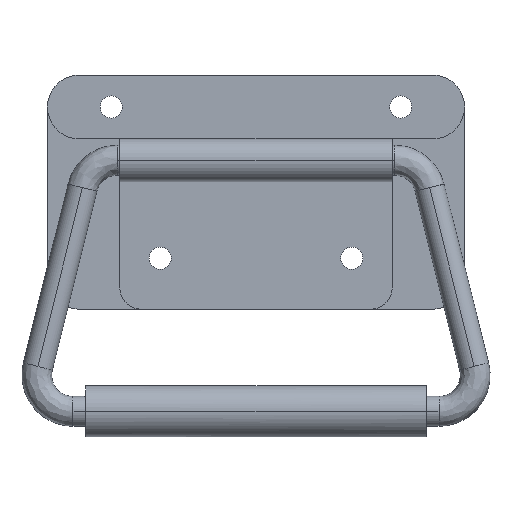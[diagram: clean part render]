
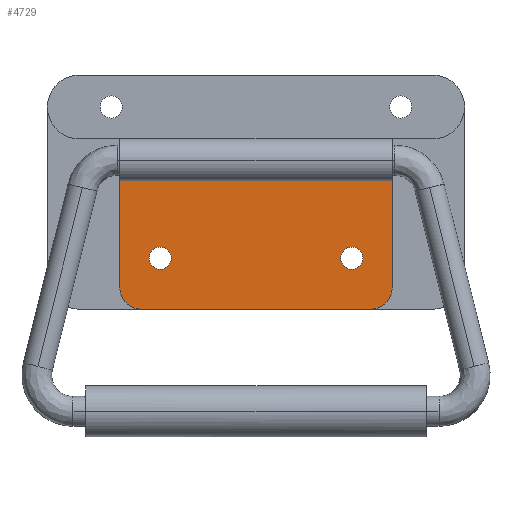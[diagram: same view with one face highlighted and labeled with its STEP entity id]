
A CAD part, left-side view. The second image highlights one B-rep face of the part: STEP entity #4729.
In plain terms, the highlighted planar face has unit normal (-1, 0, 0).
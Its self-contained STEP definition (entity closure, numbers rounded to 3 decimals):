
#4114=CARTESIAN_POINT('',(0.,-47.6,0.));
#4115=VERTEX_POINT('',#4114);
#4124=CARTESIAN_POINT('',(0.,-42.4,0.));
#4125=VERTEX_POINT('',#4124);
#4126=CARTESIAN_POINT('',(0.,-45.0,0.));
#4127=DIRECTION('',(1.0,0.0,0.0));
#4128=DIRECTION('',(0.0,-1.0,0.0));
#4129=AXIS2_PLACEMENT_3D('',#4126,#4127,#4128);
#4130=CIRCLE('',#4129,2.6);
#4131=EDGE_CURVE('',#4125,#4115,#4130,.T.);
#4198=CARTESIAN_POINT('',(0.,-2.6,0.));
#4199=VERTEX_POINT('',#4198);
#4208=CARTESIAN_POINT('',(0.0,2.6,0.0));
#4209=VERTEX_POINT('',#4208);
#4210=CARTESIAN_POINT('',(0.0,0.0,0.0));
#4211=DIRECTION('',(1.0,0.0,0.0));
#4212=DIRECTION('',(0.0,-1.0,0.0));
#4213=AXIS2_PLACEMENT_3D('',#4210,#4211,#4212);
#4214=CIRCLE('',#4213,2.6);
#4215=EDGE_CURVE('',#4209,#4199,#4214,.T.);
#4249=CARTESIAN_POINT('',(0.0,0.0,0.0));
#4250=DIRECTION('',(1.0,0.0,0.0));
#4251=DIRECTION('',(0.0,-1.0,0.0));
#4252=AXIS2_PLACEMENT_3D('',#4249,#4250,#4251);
#4253=CIRCLE('',#4252,2.6);
#4254=EDGE_CURVE('',#4199,#4209,#4253,.T.);
#4297=CARTESIAN_POINT('',(0.,-45.0,0.));
#4298=DIRECTION('',(1.0,0.0,0.0));
#4299=DIRECTION('',(0.0,-1.0,0.0));
#4300=AXIS2_PLACEMENT_3D('',#4297,#4298,#4299);
#4301=CIRCLE('',#4300,2.6);
#4302=EDGE_CURVE('',#4115,#4125,#4301,.T.);
#4647=CARTESIAN_POINT('',(0.,9.5,-7.0));
#4648=VERTEX_POINT('',#4647);
#4649=CARTESIAN_POINT('',(0.,4.5,-12.0));
#4650=VERTEX_POINT('',#4649);
#4651=CARTESIAN_POINT('',(0.0,4.5,-7.0));
#4652=DIRECTION('',(-1.0,0.0,0.0));
#4653=DIRECTION('',(0.0,1.0,0.0));
#4654=AXIS2_PLACEMENT_3D('',#4651,#4652,#4653);
#4655=CIRCLE('',#4654,5.0);
#4656=EDGE_CURVE('',#4648,#4650,#4655,.T.);
#4674=CARTESIAN_POINT('',(0.,-71.5,18.));
#4675=DIRECTION('',(-1.0,0.0,0.0));
#4676=DIRECTION('',(0.0,-1.0,0.0));
#4677=AXIS2_PLACEMENT_3D('',#4674,#4675,#4676);
#4678=PLANE('',#4677);
#4679=ORIENTED_EDGE('',*,*,#4656,.T.);
#4680=CARTESIAN_POINT('',(0.,-49.5,-12.));
#4681=VERTEX_POINT('',#4680);
#4682=CARTESIAN_POINT('',(0.,-49.5,-12.));
#4683=DIRECTION('',(0.0,1.0,0.0));
#4684=VECTOR('',#4683,54.0);
#4685=LINE('',#4682,#4684);
#4686=EDGE_CURVE('',#4681,#4650,#4685,.T.);
#4687=ORIENTED_EDGE('',*,*,#4686,.F.);
#4688=CARTESIAN_POINT('',(0.,-54.5,-7.));
#4689=VERTEX_POINT('',#4688);
#4690=CARTESIAN_POINT('',(0.0,-49.5,-7.));
#4691=DIRECTION('',(-1.0,0.0,0.0));
#4692=DIRECTION('',(0.0,0.0,-1.0));
#4693=AXIS2_PLACEMENT_3D('',#4690,#4691,#4692);
#4694=CIRCLE('',#4693,5.0);
#4695=EDGE_CURVE('',#4681,#4689,#4694,.T.);
#4696=ORIENTED_EDGE('',*,*,#4695,.T.);
#4697=CARTESIAN_POINT('',(0.,-54.5,18.));
#4698=VERTEX_POINT('',#4697);
#4699=CARTESIAN_POINT('',(0.,-54.5,-7.));
#4700=DIRECTION('',(0.0,0.0,1.0));
#4701=VECTOR('',#4700,25.);
#4702=LINE('',#4699,#4701);
#4703=EDGE_CURVE('',#4689,#4698,#4702,.T.);
#4704=ORIENTED_EDGE('',*,*,#4703,.T.);
#4705=CARTESIAN_POINT('',(0.0,9.5,18.));
#4706=VERTEX_POINT('',#4705);
#4707=CARTESIAN_POINT('',(0.,-54.5,18.));
#4708=DIRECTION('',(0.0,1.0,0.0));
#4709=VECTOR('',#4708,64.0);
#4710=LINE('',#4707,#4709);
#4711=EDGE_CURVE('',#4698,#4706,#4710,.T.);
#4712=ORIENTED_EDGE('',*,*,#4711,.T.);
#4713=CARTESIAN_POINT('',(0.0,9.5,18.));
#4714=DIRECTION('',(0.0,0.0,-1.0));
#4715=VECTOR('',#4714,25.);
#4716=LINE('',#4713,#4715);
#4717=EDGE_CURVE('',#4706,#4648,#4716,.T.);
#4718=ORIENTED_EDGE('',*,*,#4717,.T.);
#4719=EDGE_LOOP('',(#4679,#4687,#4696,#4704,#4712,#4718));
#4720=FACE_OUTER_BOUND('',#4719,.T.);
#4721=ORIENTED_EDGE('',*,*,#4215,.T.);
#4722=ORIENTED_EDGE('',*,*,#4254,.T.);
#4723=EDGE_LOOP('',(#4721,#4722));
#4724=FACE_BOUND('',#4723,.T.);
#4725=ORIENTED_EDGE('',*,*,#4131,.T.);
#4726=ORIENTED_EDGE('',*,*,#4302,.T.);
#4727=EDGE_LOOP('',(#4725,#4726));
#4728=FACE_BOUND('',#4727,.T.);
#4729=ADVANCED_FACE('',(#4720,#4724,#4728),#4678,.T.);
